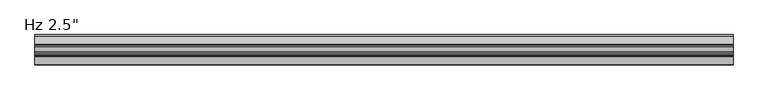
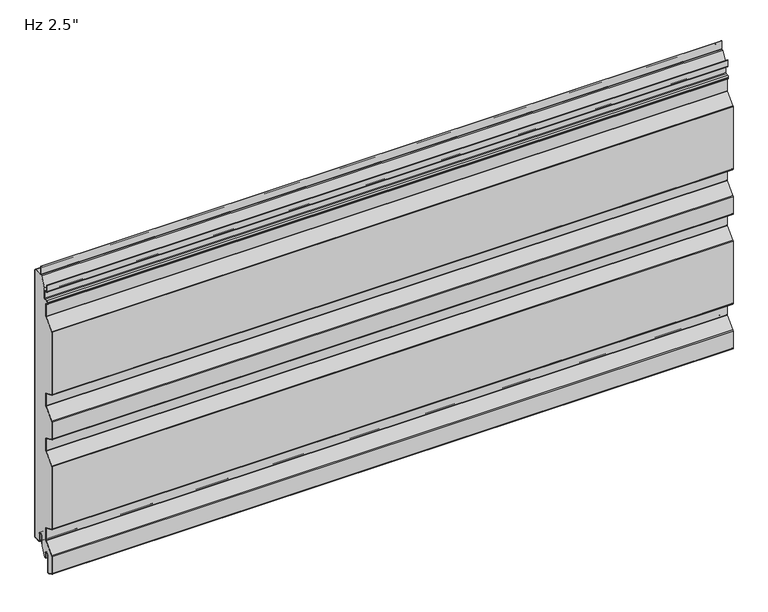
"""IFC4 building model written with IfcOpenShell, lengths in millimetres: plate geometry."""

from ifc_helpers import new_model, si_unit, point, frame, frame_2d, origin, place, context, project, spatial, polyline, circle_curve, trimmed, segment, composite_curve, outline, extrude, source, transform, mapped, element, save


def plate_6d7c6e6a(model_context):
    return source(origin(), model_context, "Body", "SweptSolid", [
        extrude(outline(composite_curve([segment(polyline([(-26.4011912, 19.05), (-26.4011912, -3.1976612), (-36.533822, -23.01875), (-38.6886912, -23.01875), (-38.6886912, -11.90625)]), True, "CONTINUOUS"), segment(trimmed(circle_curve(frame_2d((-43.6574412, -11.90625)), 4.96875), [point((-38.6886912, -11.90625))], [point((-48.6261912, -11.90625))], True, "CARTESIAN"), True, "CONTINUOUS"), segment(polyline([(-48.6261912, -11.90625), (-48.6261912, -48.8194049)]), True, "CONTINUOUS"), segment(trimmed(circle_curve(frame_2d((-50.0074412, -48.8194049)), 1.38125), [point((-48.6261912, -48.8194049))], [point((-50.5666208, -50.0824052))], False, "CARTESIAN"), True, "CONTINUOUS"), segment(polyline([(-50.5666208, -50.0824052), (-61.6779296, -45.1629946)]), True, "CONTINUOUS"), segment(trimmed(circle_curve(frame_2d((-61.11875, -43.8999943)), 1.38125), [point((-61.6779296, -45.1629946))], [point((-62.5, -43.8999943))], False, "CARTESIAN"), True, "CONTINUOUS"), segment(polyline([(-62.5, -43.8999943), (-62.5, -5.0536946)]), True, "CONTINUOUS"), segment(trimmed(circle_curve(frame_2d((-60.4012, -5.0536946)), 2.0988), [point((-62.5, -5.0536946))], [point((-61.9092077, -3.5939431))], False, "CARTESIAN"), True, "CONTINUOUS"), segment(polyline([(-61.9092077, -3.5939431), (-41.7145567, 17.2682996)]), True, "CONTINUOUS"), segment(trimmed(circle_curve(frame_2d((-43.5737, 19.0679503)), 2.5875), [point((-41.7145567, 17.2682996))], [point((-40.9862, 19.0679503))], True, "CARTESIAN"), True, "CONTINUOUS"), segment(polyline([(-40.9862, 19.0679503), (-40.9862, 45.5917981)]), True, "CONTINUOUS"), segment(trimmed(circle_curve(frame_2d((-43.5737, 45.5917981)), 2.5875), [point((-40.9862, 45.5917981))], [point((-42.5261871, 47.9577806))], True, "CARTESIAN"), True, "CONTINUOUS"), segment(polyline([(-42.5261871, 47.9577806), (-61.6779296, 56.4370054)]), True, "CONTINUOUS"), segment(trimmed(circle_curve(frame_2d((-61.11875, 57.7000057)), 1.38125), [point((-61.6779296, 56.4370054))], [point((-62.5, 57.7000057))], False, "CARTESIAN"), True, "CONTINUOUS"), segment(polyline([(-62.5, 57.7000057), (-62.5, 198.4367131)]), True, "CONTINUOUS"), segment(trimmed(circle_curve(frame_2d((-61.11875, 198.4367131)), 1.38125), [point((-62.5, 198.4367131))], [point((-62.1111912, 199.3973962))], False, "CARTESIAN"), True, "CONTINUOUS"), segment(polyline([(-62.1111912, 199.3973962), (-41.7145567, 220.4682996)]), True, "CONTINUOUS"), segment(trimmed(circle_curve(frame_2d((-43.5737, 222.2679503)), 2.5875), [point((-41.7145567, 220.4682996))], [point((-40.9862, 222.2679503))], True, "CARTESIAN"), True, "CONTINUOUS"), segment(polyline([(-40.9862, 222.2679503), (-40.9862, 248.7917981)]), True, "CONTINUOUS"), segment(trimmed(circle_curve(frame_2d((-43.5737, 248.7917981)), 2.5875), [point((-40.9862, 248.7917981))], [point((-42.5261871, 251.1577806))], True, "CARTESIAN"), True, "CONTINUOUS"), segment(polyline([(-42.5261871, 251.1577806), (-61.6779296, 259.6370054)]), True, "CONTINUOUS"), segment(trimmed(circle_curve(frame_2d((-61.11875, 260.9000057)), 1.38125), [point((-61.6779296, 259.6370054))], [point((-62.5, 260.9000057))], False, "CARTESIAN"), True, "CONTINUOUS"), segment(polyline([(-62.5, 260.9000057), (-62.5, 300.0367131)]), True, "CONTINUOUS"), segment(trimmed(circle_curve(frame_2d((-61.11875, 300.0367131)), 1.38125), [point((-62.5, 300.0367131))], [point((-62.1111912, 300.9973962))], False, "CARTESIAN"), True, "CONTINUOUS"), segment(polyline([(-62.1111912, 300.9973962), (-41.7145567, 322.0682996)]), True, "CONTINUOUS"), segment(trimmed(circle_curve(frame_2d((-43.5737, 323.8679503)), 2.5875), [point((-41.7145567, 322.0682996))], [point((-40.9862, 323.8679503))], True, "CARTESIAN"), True, "CONTINUOUS"), segment(polyline([(-40.9862, 323.8679503), (-40.9862, 350.3917981)]), True, "CONTINUOUS"), segment(trimmed(circle_curve(frame_2d((-43.5737, 350.3917981)), 2.5875), [point((-40.9862, 350.3917981))], [point((-42.5261871, 352.7577806))], True, "CARTESIAN"), True, "CONTINUOUS"), segment(polyline([(-42.5261871, 352.7577806), (-61.6779296, 361.2370054)]), True, "CONTINUOUS"), segment(trimmed(circle_curve(frame_2d((-61.11875, 362.5000057)), 1.38125), [point((-61.6779296, 361.2370054))], [point((-62.5, 362.5000057))], False, "CARTESIAN"), True, "CONTINUOUS"), segment(polyline([(-62.5, 362.5000057), (-62.5, 503.2367131)]), True, "CONTINUOUS"), segment(trimmed(circle_curve(frame_2d((-61.11875, 503.2367131)), 1.38125), [point((-62.5, 503.2367131))], [point((-62.1111912, 504.1973962))], False, "CARTESIAN"), True, "CONTINUOUS"), segment(polyline([(-62.1111912, 504.1973962), (-41.7145567, 525.2682996)]), True, "CONTINUOUS"), segment(trimmed(circle_curve(frame_2d((-43.5737, 527.0679503)), 2.5875), [point((-41.7145567, 525.2682996))], [point((-40.9862, 527.0679503))], True, "CARTESIAN"), True, "CONTINUOUS"), segment(polyline([(-40.9862, 527.0679503), (-40.9862, 553.5917981)]), True, "CONTINUOUS"), segment(trimmed(circle_curve(frame_2d((-43.5737, 553.5917981)), 2.5875), [point((-40.9862, 553.5917981))], [point((-42.5261871, 555.9577806))], True, "CARTESIAN"), True, "CONTINUOUS"), segment(polyline([(-42.5261871, 555.9577806), (-44.2166208, 556.7062016)]), True, "CONTINUOUS"), segment(trimmed(circle_curve(frame_2d((-43.6574412, 557.9692019)), 1.38125), [point((-44.2166208, 556.7062016))], [point((-45.0386912, 557.9692019))], False, "CARTESIAN"), True, "CONTINUOUS"), segment(polyline([(-45.0386912, 557.9692019), (-45.0386912, 560.2967085)]), True, "CONTINUOUS"), segment(trimmed(circle_curve(frame_2d((-43.6574412, 560.2967085)), 1.38125), [point((-45.0386912, 560.2967085))], [point((-43.7297302, 561.6760655))], False, "CARTESIAN"), True, "CONTINUOUS"), segment(polyline([(-43.7297302, 561.6760655), (-37.9657719, 561.9781418)]), True, "CONTINUOUS"), segment(trimmed(circle_curve(frame_2d((-38.1011912, 564.5620957)), 2.5875), [point((-37.9657719, 561.9781418))], [point((-35.5136912, 564.5620957))], True, "CARTESIAN"), True, "CONTINUOUS"), segment(polyline([(-35.5136912, 564.5620957), (-35.5136912, 586.9892934), (-24.8719682, 607.80625), (-2.3824412, 607.80625)]), True, "CONTINUOUS"), segment(trimmed(circle_curve(frame_2d((-2.3824412, 606.425)), 1.38125), [point((-2.3824412, 607.80625))], [point((-1.0011912, 606.425))], False, "CARTESIAN"), True, "CONTINUOUS"), segment(polyline([(-1.0011912, 606.425), (-1.0011912, 3.175)]), True, "CONTINUOUS"), segment(trimmed(circle_curve(frame_2d((-2.3824412, 3.175)), 1.38125), [point((-1.0011912, 3.175))], [point((-2.3824412, 1.79375))], False, "CARTESIAN"), True, "CONTINUOUS"), segment(polyline([(-2.3824412, 1.79375), (-15.0824412, 1.79375)]), True, "CONTINUOUS"), segment(trimmed(circle_curve(frame_2d((-15.0824412, 3.175)), 1.38125), [point((-15.0824412, 1.79375))], [point((-16.4636912, 3.175))], False, "CARTESIAN"), True, "CONTINUOUS"), segment(polyline([(-16.4636912, 3.175), (-16.4636912, 19.05)]), True, "CONTINUOUS"), segment(trimmed(circle_curve(frame_2d((-21.4324412, 19.05)), 4.96875), [point((-16.4636912, 19.05))], [point((-26.4011912, 19.05))], True, "CARTESIAN"), True, "CONTINUOUS")], self_intersect=False)), frame((-730.0, 0.0, 0.0), z_axis=(1.0, 0.0, 0.0), x_axis=(0.0, 1.0, 0.0)), (0.0, 0.0, 1.0), 1460.0),
        extrude(outline(composite_curve([segment(polyline([(-25.4, 0.79375), (-26.4, 0.79375), (-26.4, 19.05)]), True, "CONTINUOUS"), segment(trimmed(circle_curve(frame_2d((-21.43125, 19.05)), 4.96875), [point((-26.4, 19.05))], [point((-16.4625, 19.05))], False, "CARTESIAN"), True, "CONTINUOUS"), segment(polyline([(-16.4625, 19.05), (-16.4625, 3.175)]), True, "CONTINUOUS"), segment(trimmed(circle_curve(frame_2d((-15.08125, 3.175)), 1.38125), [point((-16.4625, 3.175))], [point((-15.08125, 1.79375))], True, "CARTESIAN"), True, "CONTINUOUS"), segment(polyline([(-15.08125, 1.79375), (-2.38125, 1.79375)]), True, "CONTINUOUS"), segment(trimmed(circle_curve(frame_2d((-2.38125, 3.175)), 1.38125), [point((-2.38125, 1.79375))], [point((-1.0, 3.175))], True, "CARTESIAN"), True, "CONTINUOUS"), segment(polyline([(-1.0, 3.175), (-1.0, 606.425)]), True, "CONTINUOUS"), segment(trimmed(circle_curve(frame_2d((-2.38125, 606.425)), 1.38125), [point((-1.0, 606.425))], [point((-2.38125, 607.80625))], True, "CARTESIAN"), True, "CONTINUOUS"), segment(polyline([(-2.38125, 607.80625), (-19.446875, 607.80625)]), True, "CONTINUOUS"), segment(trimmed(circle_curve(frame_2d((-19.446875, 610.39375)), 2.5875), [point((-19.446875, 607.80625))], [point((-22.034375, 610.39375))], False, "CARTESIAN"), True, "CONTINUOUS"), segment(polyline([(-22.034375, 610.39375), (-22.034375, 627.85625), (-21.034375, 627.85625), (-21.034375, 610.39375)]), True, "CONTINUOUS"), segment(trimmed(circle_curve(frame_2d((-19.446875, 610.39375)), 1.5875), [point((-21.034375, 610.39375))], [point((-19.446875, 608.80625))], True, "CARTESIAN"), True, "CONTINUOUS"), segment(polyline([(-19.446875, 608.80625), (-2.38125, 608.80625)]), True, "CONTINUOUS"), segment(trimmed(circle_curve(frame_2d((-2.38125, 606.425)), 2.38125), [point((-2.38125, 608.80625))], [point((0.0, 606.425))], False, "CARTESIAN"), True, "CONTINUOUS"), segment(polyline([(0.0, 606.425), (0.0, 3.175)]), True, "CONTINUOUS"), segment(trimmed(circle_curve(frame_2d((-2.38125, 3.175)), 2.38125), [point((0.0, 3.175))], [point((-2.38125, 0.79375))], False, "CARTESIAN"), True, "CONTINUOUS"), segment(polyline([(-2.38125, 0.79375), (-15.08125, 0.79375)]), True, "CONTINUOUS"), segment(trimmed(circle_curve(frame_2d((-15.08125, 3.175)), 2.38125), [point((-15.08125, 0.79375))], [point((-17.4625, 3.175))], False, "CARTESIAN"), True, "CONTINUOUS"), segment(polyline([(-17.4625, 3.175), (-17.4625, 19.05)]), True, "CONTINUOUS"), segment(trimmed(circle_curve(frame_2d((-21.43125, 19.05)), 3.96875), [point((-17.4625, 19.05))], [point((-25.4, 19.05))], True, "CARTESIAN"), True, "CONTINUOUS"), segment(polyline([(-25.4, 19.05), (-25.4, 0.79375)]), True, "CONTINUOUS")], self_intersect=False)), frame((-730.0, 0.0, 0.0), z_axis=(1.0, 0.0, 0.0), x_axis=(0.0, 1.0, 0.0)), (0.0, 0.0, 1.0), 1460.0),
        extrude(outline(composite_curve([segment(polyline([(-47.6261912, -11.90625), (-47.6261912, -48.8194049)]), True, "CONTINUOUS"), segment(trimmed(circle_curve(frame_2d((-50.0074412, -48.8194049)), 2.38125), [point((-47.6261912, -48.8194049))], [point((-50.9714567, -50.9967946))], False, "CARTESIAN"), True, "CONTINUOUS"), segment(polyline([(-50.9714567, -50.9967946), (-62.0827655, -46.0773839)]), True, "CONTINUOUS"), segment(trimmed(circle_curve(frame_2d((-61.11875, -43.8999943)), 2.38125), [point((-62.0827655, -46.0773839))], [point((-63.5, -43.8999943))], False, "CARTESIAN"), True, "CONTINUOUS"), segment(polyline([(-63.5, -43.8999943), (-63.5, -5.0536946)]), True, "CONTINUOUS"), segment(trimmed(circle_curve(frame_2d((-60.4012, -5.0536946)), 3.0988), [point((-63.5, -5.0536946))], [point((-62.6277172, -2.8984259))], False, "CARTESIAN"), True, "CONTINUOUS"), segment(polyline([(-62.6277172, -2.8984259), (-42.4330662, 17.9638168)]), True, "CONTINUOUS"), segment(trimmed(circle_curve(frame_2d((-43.5737, 19.0679503)), 1.5875), [point((-42.4330662, 17.9638168))], [point((-41.9862, 19.0679503))], True, "CARTESIAN"), True, "CONTINUOUS"), segment(polyline([(-41.9862, 19.0679503), (-41.9862, 45.5917981)]), True, "CONTINUOUS"), segment(trimmed(circle_curve(frame_2d((-43.5737, 45.5917981)), 1.5875), [point((-41.9862, 45.5917981))], [point((-42.931023, 47.0433912))], True, "CARTESIAN"), True, "CONTINUOUS"), segment(polyline([(-42.931023, 47.0433912), (-62.0827655, 55.5226161)]), True, "CONTINUOUS"), segment(trimmed(circle_curve(frame_2d((-61.11875, 57.7000057)), 2.38125), [point((-62.0827655, 55.5226161))], [point((-63.5, 57.7000057))], False, "CARTESIAN"), True, "CONTINUOUS"), segment(polyline([(-63.5, 57.7000057), (-63.5, 198.4367131)]), True, "CONTINUOUS"), segment(trimmed(circle_curve(frame_2d((-61.11875, 198.4367131)), 2.38125), [point((-63.5, 198.4367131))], [point((-62.8297007, 200.0929134))], False, "CARTESIAN"), True, "CONTINUOUS"), segment(polyline([(-62.8297007, 200.0929134), (-42.4330662, 221.1638168)]), True, "CONTINUOUS"), segment(trimmed(circle_curve(frame_2d((-43.5737, 222.2679503)), 1.5875), [point((-42.4330662, 221.1638168))], [point((-41.9862, 222.2679503))], True, "CARTESIAN"), True, "CONTINUOUS"), segment(polyline([(-41.9862, 222.2679503), (-41.9862, 248.7917981)]), True, "CONTINUOUS"), segment(trimmed(circle_curve(frame_2d((-43.5737, 248.7917981)), 1.5875), [point((-41.9862, 248.7917981))], [point((-42.931023, 250.2433912))], True, "CARTESIAN"), True, "CONTINUOUS"), segment(polyline([(-42.931023, 250.2433912), (-62.0827655, 258.7226161)]), True, "CONTINUOUS"), segment(trimmed(circle_curve(frame_2d((-61.11875, 260.9000057)), 2.38125), [point((-62.0827655, 258.7226161))], [point((-63.5, 260.9000057))], False, "CARTESIAN"), True, "CONTINUOUS"), segment(polyline([(-63.5, 260.9000057), (-63.5, 300.0367131)]), True, "CONTINUOUS"), segment(trimmed(circle_curve(frame_2d((-61.11875, 300.0367131)), 2.38125), [point((-63.5, 300.0367131))], [point((-62.8297007, 301.6929134))], False, "CARTESIAN"), True, "CONTINUOUS"), segment(polyline([(-62.8297007, 301.6929134), (-42.4330662, 322.7638168)]), True, "CONTINUOUS"), segment(trimmed(circle_curve(frame_2d((-43.5737, 323.8679503)), 1.5875), [point((-42.4330662, 322.7638168))], [point((-41.9862, 323.8679503))], True, "CARTESIAN"), True, "CONTINUOUS"), segment(polyline([(-41.9862, 323.8679503), (-41.9862, 350.3917981)]), True, "CONTINUOUS"), segment(trimmed(circle_curve(frame_2d((-43.5737, 350.3917981)), 1.5875), [point((-41.9862, 350.3917981))], [point((-42.931023, 351.8433912))], True, "CARTESIAN"), True, "CONTINUOUS"), segment(polyline([(-42.931023, 351.8433912), (-62.0827655, 360.3226161)]), True, "CONTINUOUS"), segment(trimmed(circle_curve(frame_2d((-61.11875, 362.5000057)), 2.38125), [point((-62.0827655, 360.3226161))], [point((-63.5, 362.5000057))], False, "CARTESIAN"), True, "CONTINUOUS"), segment(polyline([(-63.5, 362.5000057), (-63.5, 503.2367131)]), True, "CONTINUOUS"), segment(trimmed(circle_curve(frame_2d((-61.11875, 503.2367131)), 2.38125), [point((-63.5, 503.2367131))], [point((-62.8297007, 504.8929134))], False, "CARTESIAN"), True, "CONTINUOUS"), segment(polyline([(-62.8297007, 504.8929134), (-42.4330662, 525.9638168)]), True, "CONTINUOUS"), segment(trimmed(circle_curve(frame_2d((-43.5737, 527.0679503)), 1.5875), [point((-42.4330662, 525.9638168))], [point((-41.9862, 527.0679503))], True, "CARTESIAN"), True, "CONTINUOUS"), segment(polyline([(-41.9862, 527.0679503), (-41.9862, 553.5917981)]), True, "CONTINUOUS"), segment(trimmed(circle_curve(frame_2d((-43.5737, 553.5917981)), 1.5875), [point((-41.9862, 553.5917981))], [point((-42.931023, 555.0433912))], True, "CARTESIAN"), True, "CONTINUOUS"), segment(polyline([(-42.931023, 555.0433912), (-44.6214567, 555.7918123)]), True, "CONTINUOUS"), segment(trimmed(circle_curve(frame_2d((-43.6574412, 557.9692019)), 2.38125), [point((-44.6214567, 555.7918123))], [point((-46.0386912, 557.9692019))], False, "CARTESIAN"), True, "CONTINUOUS"), segment(polyline([(-46.0386912, 557.9692019), (-46.0386912, 560.2967085)]), True, "CONTINUOUS"), segment(trimmed(circle_curve(frame_2d((-43.6574412, 560.2967085)), 2.38125), [point((-46.0386912, 560.2967085))], [point((-43.7820662, 562.6746951))], False, "CARTESIAN"), True, "CONTINUOUS"), segment(polyline([(-43.7820662, 562.6746951), (-38.0181078, 562.9767713)]), True, "CONTINUOUS"), segment(trimmed(circle_curve(frame_2d((-38.1011912, 564.5620957)), 1.5875), [point((-38.0181078, 562.9767713))], [point((-36.5136912, 564.5620957))], True, "CARTESIAN"), True, "CONTINUOUS"), segment(polyline([(-36.5136912, 564.5620957), (-36.5136912, 579.4375)]), True, "CONTINUOUS"), segment(trimmed(circle_curve(frame_2d((-38.1011912, 579.4375)), 1.5875), [point((-36.5136912, 579.4375))], [point((-38.1011912, 581.025))], True, "CARTESIAN"), True, "CONTINUOUS"), segment(polyline([(-38.1011912, 581.025), (-41.6730662, 581.025)]), True, "CONTINUOUS"), segment(trimmed(circle_curve(frame_2d((-41.6730662, 583.40625)), 2.38125), [point((-41.6730662, 581.025))], [point((-44.0543162, 583.40625))], False, "CARTESIAN"), True, "CONTINUOUS"), segment(polyline([(-44.0543162, 583.40625), (-44.0543162, 597.69375), (-43.0543162, 597.69375), (-43.0543162, 583.40625)]), True, "CONTINUOUS"), segment(trimmed(circle_curve(frame_2d((-41.6730662, 583.40625)), 1.38125), [point((-43.0543162, 583.40625))], [point((-41.6730662, 582.025))], True, "CARTESIAN"), True, "CONTINUOUS"), segment(polyline([(-41.6730662, 582.025), (-38.1011912, 582.025)]), True, "CONTINUOUS"), segment(trimmed(circle_curve(frame_2d((-38.1011912, 579.4375)), 2.5875), [point((-38.1011912, 582.025))], [point((-35.5136912, 579.4375))], False, "CARTESIAN"), True, "CONTINUOUS"), segment(polyline([(-35.5136912, 579.4375), (-35.5136912, 564.5620957)]), True, "CONTINUOUS"), segment(trimmed(circle_curve(frame_2d((-38.1011912, 564.5620957)), 2.5875), [point((-35.5136912, 564.5620957))], [point((-37.9657719, 561.9781418))], False, "CARTESIAN"), True, "CONTINUOUS"), segment(polyline([(-37.9657719, 561.9781418), (-43.7297302, 561.6760655)]), True, "CONTINUOUS"), segment(trimmed(circle_curve(frame_2d((-43.6574412, 560.2967085)), 1.38125), [point((-43.7297302, 561.6760655))], [point((-45.0386912, 560.2967085))], True, "CARTESIAN"), True, "CONTINUOUS"), segment(polyline([(-45.0386912, 560.2967085), (-45.0386912, 557.9692019)]), True, "CONTINUOUS"), segment(trimmed(circle_curve(frame_2d((-43.6574412, 557.9692019)), 1.38125), [point((-45.0386912, 557.9692019))], [point((-44.2166208, 556.7062016))], True, "CARTESIAN"), True, "CONTINUOUS"), segment(polyline([(-44.2166208, 556.7062016), (-42.5261871, 555.9577806)]), True, "CONTINUOUS"), segment(trimmed(circle_curve(frame_2d((-43.5737, 553.5917981)), 2.5875), [point((-42.5261871, 555.9577806))], [point((-40.9862, 553.5917981))], False, "CARTESIAN"), True, "CONTINUOUS"), segment(polyline([(-40.9862, 553.5917981), (-40.9862, 527.0679503)]), True, "CONTINUOUS"), segment(trimmed(circle_curve(frame_2d((-43.5737, 527.0679503)), 2.5875), [point((-40.9862, 527.0679503))], [point((-41.7145567, 525.2682996))], False, "CARTESIAN"), True, "CONTINUOUS"), segment(polyline([(-41.7145567, 525.2682996), (-62.1111912, 504.1973962)]), True, "CONTINUOUS"), segment(trimmed(circle_curve(frame_2d((-61.11875, 503.2367131)), 1.38125), [point((-62.1111912, 504.1973962))], [point((-62.5, 503.2367131))], True, "CARTESIAN"), True, "CONTINUOUS"), segment(polyline([(-62.5, 503.2367131), (-62.5, 362.5000057)]), True, "CONTINUOUS"), segment(trimmed(circle_curve(frame_2d((-61.11875, 362.5000057)), 1.38125), [point((-62.5, 362.5000057))], [point((-61.6779296, 361.2370054))], True, "CARTESIAN"), True, "CONTINUOUS"), segment(polyline([(-61.6779296, 361.2370054), (-42.5261871, 352.7577806)]), True, "CONTINUOUS"), segment(trimmed(circle_curve(frame_2d((-43.5737, 350.3917981)), 2.5875), [point((-42.5261871, 352.7577806))], [point((-40.9862, 350.3917981))], False, "CARTESIAN"), True, "CONTINUOUS"), segment(polyline([(-40.9862, 350.3917981), (-40.9862, 323.8679503)]), True, "CONTINUOUS"), segment(trimmed(circle_curve(frame_2d((-43.5737, 323.8679503)), 2.5875), [point((-40.9862, 323.8679503))], [point((-41.7145567, 322.0682996))], False, "CARTESIAN"), True, "CONTINUOUS"), segment(polyline([(-41.7145567, 322.0682996), (-62.1111912, 300.9973962)]), True, "CONTINUOUS"), segment(trimmed(circle_curve(frame_2d((-61.11875, 300.0367131)), 1.38125), [point((-62.1111912, 300.9973962))], [point((-62.5, 300.0367131))], True, "CARTESIAN"), True, "CONTINUOUS"), segment(polyline([(-62.5, 300.0367131), (-62.5, 260.9000057)]), True, "CONTINUOUS"), segment(trimmed(circle_curve(frame_2d((-61.11875, 260.9000057)), 1.38125), [point((-62.5, 260.9000057))], [point((-61.6779296, 259.6370054))], True, "CARTESIAN"), True, "CONTINUOUS"), segment(polyline([(-61.6779296, 259.6370054), (-42.5261871, 251.1577806)]), True, "CONTINUOUS"), segment(trimmed(circle_curve(frame_2d((-43.5737, 248.7917981)), 2.5875), [point((-42.5261871, 251.1577806))], [point((-40.9862, 248.7917981))], False, "CARTESIAN"), True, "CONTINUOUS"), segment(polyline([(-40.9862, 248.7917981), (-40.9862, 222.2679503)]), True, "CONTINUOUS"), segment(trimmed(circle_curve(frame_2d((-43.5737, 222.2679503)), 2.5875), [point((-40.9862, 222.2679503))], [point((-41.7145567, 220.4682996))], False, "CARTESIAN"), True, "CONTINUOUS"), segment(polyline([(-41.7145567, 220.4682996), (-62.1111912, 199.3973962)]), True, "CONTINUOUS"), segment(trimmed(circle_curve(frame_2d((-61.11875, 198.4367131)), 1.38125), [point((-62.1111912, 199.3973962))], [point((-62.5, 198.4367131))], True, "CARTESIAN"), True, "CONTINUOUS"), segment(polyline([(-62.5, 198.4367131), (-62.5, 57.7000057)]), True, "CONTINUOUS"), segment(trimmed(circle_curve(frame_2d((-61.11875, 57.7000057)), 1.38125), [point((-62.5, 57.7000057))], [point((-61.6779296, 56.4370054))], True, "CARTESIAN"), True, "CONTINUOUS"), segment(polyline([(-61.6779296, 56.4370054), (-42.5261871, 47.9577806)]), True, "CONTINUOUS"), segment(trimmed(circle_curve(frame_2d((-43.5737, 45.5917981)), 2.5875), [point((-42.5261871, 47.9577806))], [point((-40.9862, 45.5917981))], False, "CARTESIAN"), True, "CONTINUOUS"), segment(polyline([(-40.9862, 45.5917981), (-40.9862, 19.0679503)]), True, "CONTINUOUS"), segment(trimmed(circle_curve(frame_2d((-43.5737, 19.0679503)), 2.5875), [point((-40.9862, 19.0679503))], [point((-41.7145567, 17.2682996))], False, "CARTESIAN"), True, "CONTINUOUS"), segment(polyline([(-41.7145567, 17.2682996), (-61.9092077, -3.5939431)]), True, "CONTINUOUS"), segment(trimmed(circle_curve(frame_2d((-60.4012, -5.0536946)), 2.0988), [point((-61.9092077, -3.5939431))], [point((-62.5, -5.0536946))], True, "CARTESIAN"), True, "CONTINUOUS"), segment(polyline([(-62.5, -5.0536946), (-62.5, -43.8999943)]), True, "CONTINUOUS"), segment(trimmed(circle_curve(frame_2d((-61.11875, -43.8999943)), 1.38125), [point((-62.5, -43.8999943))], [point((-61.6779296, -45.1629946))], True, "CARTESIAN"), True, "CONTINUOUS"), segment(polyline([(-61.6779296, -45.1629946), (-50.5666208, -50.0824052)]), True, "CONTINUOUS"), segment(trimmed(circle_curve(frame_2d((-50.0074412, -48.8194049)), 1.38125), [point((-50.5666208, -50.0824052))], [point((-48.6261912, -48.8194049))], True, "CARTESIAN"), True, "CONTINUOUS"), segment(polyline([(-48.6261912, -48.8194049), (-48.6261912, -11.90625)]), True, "CONTINUOUS"), segment(trimmed(circle_curve(frame_2d((-43.6574412, -11.90625)), 4.96875), [point((-48.6261912, -11.90625))], [point((-38.6886912, -11.90625))], False, "CARTESIAN"), True, "CONTINUOUS"), segment(polyline([(-38.6886912, -11.90625), (-38.6886912, -23.01875), (-39.6886912, -23.01875), (-39.6886912, -11.90625)]), True, "CONTINUOUS"), segment(trimmed(circle_curve(frame_2d((-43.6574412, -11.90625)), 3.96875), [point((-39.6886912, -11.90625))], [point((-47.6261912, -11.90625))], True, "CARTESIAN"), True, "CONTINUOUS")], self_intersect=False)), frame((-730.0, 0.0, 0.0), z_axis=(1.0, 0.0, 0.0), x_axis=(0.0, 1.0, 0.0)), (0.0, 0.0, 1.0), 1460.0),
    ])


if __name__ == "__main__":
    model = new_model("IFC4")
    model_context = context("Model", 3, world=origin())
    ifc_project = project(units=[si_unit("LENGTHUNIT", "METRE", prefix="MILLI")], contexts=[model_context])
    site = spatial("IfcSite", under=ifc_project)
    building = spatial("IfcBuilding", under=site)
    placement = place(None, origin())
    plate_shape = plate_6d7c6e6a(model_context)
    element("IfcPlate", 1, ObjectType="KIP-24-DWR-R19-CP-Hz-A : Hz 2.5\"", at=placement, inside=building, context=model_context, shape_type="MappedRepresentation", body=[
        mapped(plate_shape, transform((0.0, 0.0, 0.0), x_axis=(1.0, 0.0, 0.0), y_axis=(0.0, 1.0, 0.0), z_axis=(0.0, 0.0, 1.0))),
    ])
    save(model, "model.ifc")
